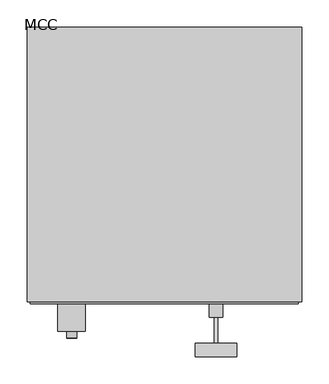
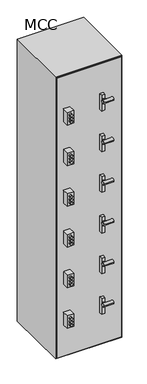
"""IFC4 building model written with IfcOpenShell, lengths in millimetres: proxy geometry, Modular Motor Control Centers - Motor Starter Section : MCC."""

from ifc_helpers import new_model, si_unit, frame, origin, origin_with_axes, place, context, project, spatial, polyline, circle_curve, outline, extrude, source, transform, mapped, element, save
from ifc_brep_helpers import plane_surface, cylinder_surface, advanced_brep


def mcc_df12b1df(model_context):
    return source(origin(), model_context, "Body", "SolidModel", [
        extrude(outline(polyline([(254.0, -508.0), (-254.0, -508.0), (-254.0, 0.0), (254.0, 0.0), (254.0, -508.0)])), origin_with_axes(), (0.0, 0.0, 1.0), 2286.0),
        advanced_brep(
        [(-180.975, -574.675, 1657.35), (-161.925, -574.675, 1657.35), (-180.975, -561.975, 1657.35), (-161.925, -561.975, 1657.35), (-146.05, -561.975, 1682.75), (-146.05, -511.175, 1682.75), (-196.85, -511.175, 1682.75), (-196.85, -561.975, 1682.75), (-146.05, -561.975, 1581.15), (-196.85, -561.975, 1581.15), (-196.85, -511.175, 1581.15), (-146.05, -511.175, 1581.15), (-161.925, -561.975, 1631.95), (-180.975, -561.975, 1631.95), (-161.925, -561.975, 1606.55), (-180.975, -561.975, 1606.55), (-180.975, -574.675, 1631.95), (-161.925, -574.675, 1631.95), (-180.975, -574.675, 1606.55), (-161.925, -574.675, 1606.55)],
        [
            (0, 1, circle_curve(frame((-171.45, -574.675, 1657.35), z_axis=(0.0, -1.0, 0.0), x_axis=(1.0, 0.0, 0.0)), 9.525)),
            (1, 0, circle_curve(frame((-171.45, -574.675, 1657.35), z_axis=(0.0, -1.0, 0.0), x_axis=(1.0, 0.0, 0.0)), 9.525)),
            (0, 2),
            (2, 3, circle_curve(frame((-171.45, -561.975, 1657.35), z_axis=(0.0, -1.0, 0.0), x_axis=(1.0, 0.0, 0.0)), 9.525)),
            (3, 1),
            (3, 2, circle_curve(frame((-171.45, -561.975, 1657.35), z_axis=(0.0, -1.0, 0.0), x_axis=(1.0, 0.0, 0.0)), 9.525)),
            (4, 5),
            (5, 6),
            (6, 7),
            (7, 4),
            (8, 9),
            (9, 10),
            (10, 11),
            (11, 8),
            (4, 8),
            (11, 5),
            (10, 6),
            (9, 7),
            (12, 13, circle_curve(frame((-171.45, -561.975, 1631.95), z_axis=(0.0, 1.0, 0.0), x_axis=(1.0, 0.0, 0.0)), 9.525)),
            (13, 12, circle_curve(frame((-171.45, -561.975, 1631.95), z_axis=(0.0, 1.0, 0.0), x_axis=(1.0, 0.0, 0.0)), 9.525)),
            (14, 15, circle_curve(frame((-171.45, -561.975, 1606.55), z_axis=(0.0, 1.0, 0.0), x_axis=(1.0, 0.0, 0.0)), 9.525)),
            (15, 14, circle_curve(frame((-171.45, -561.975, 1606.55), z_axis=(0.0, 1.0, 0.0), x_axis=(1.0, 0.0, 0.0)), 9.525)),
            (16, 17, circle_curve(frame((-171.45, -574.675, 1631.95), z_axis=(0.0, -1.0, 0.0), x_axis=(1.0, 0.0, 0.0)), 9.525)),
            (17, 16, circle_curve(frame((-171.45, -574.675, 1631.95), z_axis=(0.0, -1.0, 0.0), x_axis=(1.0, 0.0, 0.0)), 9.525)),
            (16, 13),
            (12, 17),
            (18, 19, circle_curve(frame((-171.45, -574.675, 1606.55), z_axis=(0.0, -1.0, 0.0), x_axis=(1.0, 0.0, 0.0)), 9.525)),
            (19, 18, circle_curve(frame((-171.45, -574.675, 1606.55), z_axis=(0.0, -1.0, 0.0), x_axis=(1.0, 0.0, 0.0)), 9.525)),
            (18, 15),
            (14, 19),
        ],
        [
            plane_surface(frame((-161.925, -574.675, 1657.35), z_axis=(0.0, -1.0, 0.0), x_axis=(0.0, 0.0, 1.0))),
            cylinder_surface(frame((-171.45, -561.975, 1657.35), z_axis=(0.0, -1.0, 0.0), x_axis=(1.0, 0.0, 0.0)), 9.525),
            plane_surface(frame((-146.05, -561.975, 1682.75), z_axis=(0.0, 0.0, 1.0), x_axis=(0.0, 1.0, 0.0))),
            plane_surface(frame((-146.05, -561.975, 1581.15), z_axis=(0.0, 0.0, -1.0), x_axis=(0.0, -1.0, 0.0))),
            plane_surface(frame((-146.05, -561.975, 1682.75), z_axis=(1.0, 0.0, 0.0), x_axis=(0.0, 0.0, -1.0))),
            plane_surface(frame((-146.05, -511.175, 1682.75), z_axis=(0.0, 1.0, 0.0), x_axis=(0.0, 0.0, -1.0))),
            plane_surface(frame((-196.85, -511.175, 1682.75), z_axis=(-1.0, 0.0, 0.0), x_axis=(0.0, 0.0, -1.0))),
            plane_surface(frame((-196.85, -561.975, 1682.75), z_axis=(0.0, -1.0, 0.0), x_axis=(0.0, 0.0, -1.0))),
            plane_surface(frame((-161.925, -574.675, 1631.95), z_axis=(0.0, -1.0, 0.0), x_axis=(0.0, 0.0, 1.0))),
            cylinder_surface(frame((-171.45, -561.975, 1631.95), z_axis=(0.0, -1.0, 0.0), x_axis=(1.0, 0.0, 0.0)), 9.525),
            plane_surface(frame((-161.925, -574.675, 1606.55), z_axis=(0.0, -1.0, 0.0), x_axis=(0.0, 0.0, 1.0))),
            cylinder_surface(frame((-171.45, -561.975, 1606.55), z_axis=(0.0, -1.0, 0.0), x_axis=(1.0, 0.0, 0.0)), 9.525),
        ],
        [
            (0, [[1, 2]]),
            (1, [[-1, 3, 4, 5]]),
            (1, [[-2, -5, 6, -3]]),
            (2, [[7, 8, 9, 10]]),
            (3, [[11, 12, 13, 14]]),
            (4, [[-7, 15, -14, 16]]),
            (5, [[-8, -16, -13, 17]]),
            (6, [[-9, -17, -12, 18]]),
            (7, [[-10, -18, -11, -15], [-4, -6], [19, 20], [21, 22]]),
            (8, [[23, 24]]),
            (9, [[-23, 25, -19, 26]]),
            (9, [[-24, -26, -20, -25]]),
            (10, [[27, 28]]),
            (11, [[-27, 29, -21, 30]]),
            (11, [[-28, -30, -22, -29]]),
        ],
    ),
        advanced_brep(
        [(-180.975, -574.675, 1276.35), (-161.925, -574.675, 1276.35), (-180.975, -561.975, 1276.35), (-161.925, -561.975, 1276.35), (-146.05, -561.975, 1352.55), (-146.05, -511.175, 1352.55), (-196.85, -511.175, 1352.55), (-196.85, -561.975, 1352.55), (-146.05, -561.975, 1250.95), (-196.85, -561.975, 1250.95), (-196.85, -511.175, 1250.95), (-146.05, -511.175, 1250.95), (-161.925, -561.975, 1301.75), (-180.975, -561.975, 1301.75), (-161.925, -561.975, 1327.15), (-180.975, -561.975, 1327.15), (-180.975, -574.675, 1301.75), (-161.925, -574.675, 1301.75), (-180.975, -574.675, 1327.15), (-161.925, -574.675, 1327.15)],
        [
            (0, 1, circle_curve(frame((-171.45, -574.675, 1276.35), z_axis=(0.0, -1.0, 0.0), x_axis=(1.0, 0.0, 0.0)), 9.525)),
            (1, 0, circle_curve(frame((-171.45, -574.675, 1276.35), z_axis=(0.0, -1.0, 0.0), x_axis=(1.0, 0.0, 0.0)), 9.525)),
            (0, 2),
            (2, 3, circle_curve(frame((-171.45, -561.975, 1276.35), z_axis=(0.0, -1.0, 0.0), x_axis=(1.0, 0.0, 0.0)), 9.525)),
            (3, 1),
            (3, 2, circle_curve(frame((-171.45, -561.975, 1276.35), z_axis=(0.0, -1.0, 0.0), x_axis=(1.0, 0.0, 0.0)), 9.525)),
            (4, 5),
            (5, 6),
            (6, 7),
            (7, 4),
            (8, 9),
            (9, 10),
            (10, 11),
            (11, 8),
            (4, 8),
            (11, 5),
            (10, 6),
            (9, 7),
            (12, 13, circle_curve(frame((-171.45, -561.975, 1301.75), z_axis=(0.0, 1.0, 0.0), x_axis=(1.0, 0.0, 0.0)), 9.525)),
            (13, 12, circle_curve(frame((-171.45, -561.975, 1301.75), z_axis=(0.0, 1.0, 0.0), x_axis=(1.0, 0.0, 0.0)), 9.525)),
            (14, 15, circle_curve(frame((-171.45, -561.975, 1327.15), z_axis=(0.0, 1.0, 0.0), x_axis=(1.0, 0.0, 0.0)), 9.525)),
            (15, 14, circle_curve(frame((-171.45, -561.975, 1327.15), z_axis=(0.0, 1.0, 0.0), x_axis=(1.0, 0.0, 0.0)), 9.525)),
            (16, 17, circle_curve(frame((-171.45, -574.675, 1301.75), z_axis=(0.0, -1.0, 0.0), x_axis=(1.0, 0.0, 0.0)), 9.525)),
            (17, 16, circle_curve(frame((-171.45, -574.675, 1301.75), z_axis=(0.0, -1.0, 0.0), x_axis=(1.0, 0.0, 0.0)), 9.525)),
            (16, 13),
            (12, 17),
            (18, 19, circle_curve(frame((-171.45, -574.675, 1327.15), z_axis=(0.0, -1.0, 0.0), x_axis=(1.0, 0.0, 0.0)), 9.525)),
            (19, 18, circle_curve(frame((-171.45, -574.675, 1327.15), z_axis=(0.0, -1.0, 0.0), x_axis=(1.0, 0.0, 0.0)), 9.525)),
            (18, 15),
            (14, 19),
        ],
        [
            plane_surface(frame((-161.925, -574.675, 1276.35), z_axis=(0.0, -1.0, 0.0), x_axis=(0.0, 0.0, 1.0))),
            cylinder_surface(frame((-171.45, -561.975, 1276.35), z_axis=(0.0, -1.0, 0.0), x_axis=(1.0, 0.0, 0.0)), 9.525),
            plane_surface(frame((-146.05, -561.975, 1352.55), z_axis=(0.0, 0.0, 1.0), x_axis=(0.0, 1.0, 0.0))),
            plane_surface(frame((-146.05, -561.975, 1250.95), z_axis=(0.0, 0.0, -1.0), x_axis=(0.0, -1.0, 0.0))),
            plane_surface(frame((-146.05, -561.975, 1352.55), z_axis=(1.0, 0.0, 0.0), x_axis=(0.0, 0.0, -1.0))),
            plane_surface(frame((-146.05, -511.175, 1352.55), z_axis=(0.0, 1.0, 0.0), x_axis=(0.0, 0.0, -1.0))),
            plane_surface(frame((-196.85, -511.175, 1352.55), z_axis=(-1.0, 0.0, 0.0), x_axis=(0.0, 0.0, -1.0))),
            plane_surface(frame((-196.85, -561.975, 1352.55), z_axis=(0.0, -1.0, 0.0), x_axis=(0.0, 0.0, -1.0))),
            plane_surface(frame((-161.925, -574.675, 1301.75), z_axis=(0.0, -1.0, 0.0), x_axis=(0.0, 0.0, 1.0))),
            cylinder_surface(frame((-171.45, -561.975, 1301.75), z_axis=(0.0, -1.0, 0.0), x_axis=(1.0, 0.0, 0.0)), 9.525),
            plane_surface(frame((-161.925, -574.675, 1327.15), z_axis=(0.0, -1.0, 0.0), x_axis=(0.0, 0.0, 1.0))),
            cylinder_surface(frame((-171.45, -561.975, 1327.15), z_axis=(0.0, -1.0, 0.0), x_axis=(1.0, 0.0, 0.0)), 9.525),
        ],
        [
            (0, [[1, 2]]),
            (1, [[-1, 3, 4, 5]]),
            (1, [[-2, -5, 6, -3]]),
            (2, [[7, 8, 9, 10]]),
            (3, [[11, 12, 13, 14]]),
            (4, [[-7, 15, -14, 16]]),
            (5, [[-8, -16, -13, 17]]),
            (6, [[-9, -17, -12, 18]]),
            (7, [[-10, -18, -11, -15], [-4, -6], [19, 20], [21, 22]]),
            (8, [[23, 24]]),
            (9, [[-23, 25, -19, 26]]),
            (9, [[-24, -26, -20, -25]]),
            (10, [[27, 28]]),
            (11, [[-27, 29, -21, 30]]),
            (11, [[-28, -30, -22, -29]]),
        ],
    ),
        advanced_brep(
        [(-180.975, -574.675, 996.95), (-161.925, -574.675, 996.95), (-180.975, -561.975, 996.95), (-161.925, -561.975, 996.95), (-146.05, -561.975, 1022.35), (-146.05, -511.175, 1022.35), (-196.85, -511.175, 1022.35), (-196.85, -561.975, 1022.35), (-146.05, -561.975, 920.75), (-196.85, -561.975, 920.75), (-196.85, -511.175, 920.75), (-146.05, -511.175, 920.75), (-161.925, -561.975, 971.55), (-180.975, -561.975, 971.55), (-161.925, -561.975, 946.15), (-180.975, -561.975, 946.15), (-180.975, -574.675, 971.55), (-161.925, -574.675, 971.55), (-180.975, -574.675, 946.15), (-161.925, -574.675, 946.15)],
        [
            (0, 1, circle_curve(frame((-171.45, -574.675, 996.95), z_axis=(0.0, -1.0, 0.0), x_axis=(1.0, 0.0, 0.0)), 9.525)),
            (1, 0, circle_curve(frame((-171.45, -574.675, 996.95), z_axis=(0.0, -1.0, 0.0), x_axis=(1.0, 0.0, 0.0)), 9.525)),
            (0, 2),
            (2, 3, circle_curve(frame((-171.45, -561.975, 996.95), z_axis=(0.0, -1.0, 0.0), x_axis=(1.0, 0.0, 0.0)), 9.525)),
            (3, 1),
            (3, 2, circle_curve(frame((-171.45, -561.975, 996.95), z_axis=(0.0, -1.0, 0.0), x_axis=(1.0, 0.0, 0.0)), 9.525)),
            (4, 5),
            (5, 6),
            (6, 7),
            (7, 4),
            (8, 9),
            (9, 10),
            (10, 11),
            (11, 8),
            (4, 8),
            (11, 5),
            (10, 6),
            (9, 7),
            (12, 13, circle_curve(frame((-171.45, -561.975, 971.55), z_axis=(0.0, 1.0, 0.0), x_axis=(1.0, 0.0, 0.0)), 9.525)),
            (13, 12, circle_curve(frame((-171.45, -561.975, 971.55), z_axis=(0.0, 1.0, 0.0), x_axis=(1.0, 0.0, 0.0)), 9.525)),
            (14, 15, circle_curve(frame((-171.45, -561.975, 946.15), z_axis=(0.0, 1.0, 0.0), x_axis=(1.0, 0.0, 0.0)), 9.525)),
            (15, 14, circle_curve(frame((-171.45, -561.975, 946.15), z_axis=(0.0, 1.0, 0.0), x_axis=(1.0, 0.0, 0.0)), 9.525)),
            (16, 17, circle_curve(frame((-171.45, -574.675, 971.55), z_axis=(0.0, -1.0, 0.0), x_axis=(1.0, 0.0, 0.0)), 9.525)),
            (17, 16, circle_curve(frame((-171.45, -574.675, 971.55), z_axis=(0.0, -1.0, 0.0), x_axis=(1.0, 0.0, 0.0)), 9.525)),
            (16, 13),
            (12, 17),
            (18, 19, circle_curve(frame((-171.45, -574.675, 946.15), z_axis=(0.0, -1.0, 0.0), x_axis=(1.0, 0.0, 0.0)), 9.525)),
            (19, 18, circle_curve(frame((-171.45, -574.675, 946.15), z_axis=(0.0, -1.0, 0.0), x_axis=(1.0, 0.0, 0.0)), 9.525)),
            (18, 15),
            (14, 19),
        ],
        [
            plane_surface(frame((-161.925, -574.675, 996.95), z_axis=(0.0, -1.0, 0.0), x_axis=(0.0, 0.0, 1.0))),
            cylinder_surface(frame((-171.45, -561.975, 996.95), z_axis=(0.0, -1.0, 0.0), x_axis=(1.0, 0.0, 0.0)), 9.525),
            plane_surface(frame((-146.05, -561.975, 1022.35), z_axis=(0.0, 0.0, 1.0), x_axis=(0.0, 1.0, 0.0))),
            plane_surface(frame((-146.05, -561.975, 920.75), z_axis=(0.0, 0.0, -1.0), x_axis=(0.0, -1.0, 0.0))),
            plane_surface(frame((-146.05, -561.975, 1022.35), z_axis=(1.0, 0.0, 0.0), x_axis=(0.0, 0.0, -1.0))),
            plane_surface(frame((-146.05, -511.175, 1022.35), z_axis=(0.0, 1.0, 0.0), x_axis=(0.0, 0.0, -1.0))),
            plane_surface(frame((-196.85, -511.175, 1022.35), z_axis=(-1.0, 0.0, 0.0), x_axis=(0.0, 0.0, -1.0))),
            plane_surface(frame((-196.85, -561.975, 1022.35), z_axis=(0.0, -1.0, 0.0), x_axis=(0.0, 0.0, -1.0))),
            plane_surface(frame((-161.925, -574.675, 971.55), z_axis=(0.0, -1.0, 0.0), x_axis=(0.0, 0.0, 1.0))),
            cylinder_surface(frame((-171.45, -561.975, 971.55), z_axis=(0.0, -1.0, 0.0), x_axis=(1.0, 0.0, 0.0)), 9.525),
            plane_surface(frame((-161.925, -574.675, 946.15), z_axis=(0.0, -1.0, 0.0), x_axis=(0.0, 0.0, 1.0))),
            cylinder_surface(frame((-171.45, -561.975, 946.15), z_axis=(0.0, -1.0, 0.0), x_axis=(1.0, 0.0, 0.0)), 9.525),
        ],
        [
            (0, [[1, 2]]),
            (1, [[-1, 3, 4, 5]]),
            (1, [[-2, -5, 6, -3]]),
            (2, [[7, 8, 9, 10]]),
            (3, [[11, 12, 13, 14]]),
            (4, [[-7, 15, -14, 16]]),
            (5, [[-8, -16, -13, 17]]),
            (6, [[-9, -17, -12, 18]]),
            (7, [[-10, -18, -11, -15], [-4, -6], [19, 20], [21, 22]]),
            (8, [[23, 24]]),
            (9, [[-23, 25, -19, 26]]),
            (9, [[-24, -26, -20, -25]]),
            (10, [[27, 28]]),
            (11, [[-27, 29, -21, 30]]),
            (11, [[-28, -30, -22, -29]]),
        ],
    ),
        advanced_brep(
        [(-180.975, -574.675, 615.95), (-161.925, -574.675, 615.95), (-180.975, -561.975, 615.95), (-161.925, -561.975, 615.95), (-146.05, -561.975, 692.15), (-146.05, -511.175, 692.15), (-196.85, -511.175, 692.15), (-196.85, -561.975, 692.15), (-146.05, -561.975, 590.55), (-196.85, -561.975, 590.55), (-196.85, -511.175, 590.55), (-146.05, -511.175, 590.55), (-161.925, -561.975, 641.35), (-180.975, -561.975, 641.35), (-161.925, -561.975, 666.75), (-180.975, -561.975, 666.75), (-180.975, -574.675, 641.35), (-161.925, -574.675, 641.35), (-180.975, -574.675, 666.75), (-161.925, -574.675, 666.75)],
        [
            (0, 1, circle_curve(frame((-171.45, -574.675, 615.95), z_axis=(0.0, -1.0, 0.0), x_axis=(1.0, 0.0, 0.0)), 9.525)),
            (1, 0, circle_curve(frame((-171.45, -574.675, 615.95), z_axis=(0.0, -1.0, 0.0), x_axis=(1.0, 0.0, 0.0)), 9.525)),
            (0, 2),
            (2, 3, circle_curve(frame((-171.45, -561.975, 615.95), z_axis=(0.0, -1.0, 0.0), x_axis=(1.0, 0.0, 0.0)), 9.525)),
            (3, 1),
            (3, 2, circle_curve(frame((-171.45, -561.975, 615.95), z_axis=(0.0, -1.0, 0.0), x_axis=(1.0, 0.0, 0.0)), 9.525)),
            (4, 5),
            (5, 6),
            (6, 7),
            (7, 4),
            (8, 9),
            (9, 10),
            (10, 11),
            (11, 8),
            (4, 8),
            (11, 5),
            (10, 6),
            (9, 7),
            (12, 13, circle_curve(frame((-171.45, -561.975, 641.35), z_axis=(0.0, 1.0, 0.0), x_axis=(1.0, 0.0, 0.0)), 9.525)),
            (13, 12, circle_curve(frame((-171.45, -561.975, 641.35), z_axis=(0.0, 1.0, 0.0), x_axis=(1.0, 0.0, 0.0)), 9.525)),
            (14, 15, circle_curve(frame((-171.45, -561.975, 666.75), z_axis=(0.0, 1.0, 0.0), x_axis=(1.0, 0.0, 0.0)), 9.525)),
            (15, 14, circle_curve(frame((-171.45, -561.975, 666.75), z_axis=(0.0, 1.0, 0.0), x_axis=(1.0, 0.0, 0.0)), 9.525)),
            (16, 17, circle_curve(frame((-171.45, -574.675, 641.35), z_axis=(0.0, -1.0, 0.0), x_axis=(1.0, 0.0, 0.0)), 9.525)),
            (17, 16, circle_curve(frame((-171.45, -574.675, 641.35), z_axis=(0.0, -1.0, 0.0), x_axis=(1.0, 0.0, 0.0)), 9.525)),
            (16, 13),
            (12, 17),
            (18, 19, circle_curve(frame((-171.45, -574.675, 666.75), z_axis=(0.0, -1.0, 0.0), x_axis=(1.0, 0.0, 0.0)), 9.525)),
            (19, 18, circle_curve(frame((-171.45, -574.675, 666.75), z_axis=(0.0, -1.0, 0.0), x_axis=(1.0, 0.0, 0.0)), 9.525)),
            (18, 15),
            (14, 19),
        ],
        [
            plane_surface(frame((-161.925, -574.675, 615.95), z_axis=(0.0, -1.0, 0.0), x_axis=(0.0, 0.0, 1.0))),
            cylinder_surface(frame((-171.45, -561.975, 615.95), z_axis=(0.0, -1.0, 0.0), x_axis=(1.0, 0.0, 0.0)), 9.525),
            plane_surface(frame((-146.05, -561.975, 692.15), z_axis=(0.0, 0.0, 1.0), x_axis=(0.0, 1.0, 0.0))),
            plane_surface(frame((-146.05, -561.975, 590.55), z_axis=(0.0, 0.0, -1.0), x_axis=(0.0, -1.0, 0.0))),
            plane_surface(frame((-146.05, -561.975, 692.15), z_axis=(1.0, 0.0, 0.0), x_axis=(0.0, 0.0, -1.0))),
            plane_surface(frame((-146.05, -511.175, 692.15), z_axis=(0.0, 1.0, 0.0), x_axis=(0.0, 0.0, -1.0))),
            plane_surface(frame((-196.85, -511.175, 692.15), z_axis=(-1.0, 0.0, 0.0), x_axis=(0.0, 0.0, -1.0))),
            plane_surface(frame((-196.85, -561.975, 692.15), z_axis=(0.0, -1.0, 0.0), x_axis=(0.0, 0.0, -1.0))),
            plane_surface(frame((-161.925, -574.675, 641.35), z_axis=(0.0, -1.0, 0.0), x_axis=(0.0, 0.0, 1.0))),
            cylinder_surface(frame((-171.45, -561.975, 641.35), z_axis=(0.0, -1.0, 0.0), x_axis=(1.0, 0.0, 0.0)), 9.525),
            plane_surface(frame((-161.925, -574.675, 666.75), z_axis=(0.0, -1.0, 0.0), x_axis=(0.0, 0.0, 1.0))),
            cylinder_surface(frame((-171.45, -561.975, 666.75), z_axis=(0.0, -1.0, 0.0), x_axis=(1.0, 0.0, 0.0)), 9.525),
        ],
        [
            (0, [[1, 2]]),
            (1, [[-1, 3, 4, 5]]),
            (1, [[-2, -5, 6, -3]]),
            (2, [[7, 8, 9, 10]]),
            (3, [[11, 12, 13, 14]]),
            (4, [[-7, 15, -14, 16]]),
            (5, [[-8, -16, -13, 17]]),
            (6, [[-9, -17, -12, 18]]),
            (7, [[-10, -18, -11, -15], [-4, -6], [19, 20], [21, 22]]),
            (8, [[23, 24]]),
            (9, [[-23, 25, -19, 26]]),
            (9, [[-24, -26, -20, -25]]),
            (10, [[27, 28]]),
            (11, [[-27, 29, -21, 30]]),
            (11, [[-28, -30, -22, -29]]),
        ],
    ),
        advanced_brep(
        [(-180.975, -574.675, 336.55), (-161.925, -574.675, 336.55), (-180.975, -561.975, 336.55), (-161.925, -561.975, 336.55), (-146.05, -561.975, 361.95), (-146.05, -511.175, 361.95), (-196.85, -511.175, 361.95), (-196.85, -561.975, 361.95), (-146.05, -561.975, 260.35), (-196.85, -561.975, 260.35), (-196.85, -511.175, 260.35), (-146.05, -511.175, 260.35), (-161.925, -561.975, 311.15), (-180.975, -561.975, 311.15), (-161.925, -561.975, 285.75), (-180.975, -561.975, 285.75), (-180.975, -574.675, 311.15), (-161.925, -574.675, 311.15), (-180.975, -574.675, 285.75), (-161.925, -574.675, 285.75)],
        [
            (0, 1, circle_curve(frame((-171.45, -574.675, 336.55), z_axis=(0.0, -1.0, 0.0), x_axis=(1.0, 0.0, 0.0)), 9.525)),
            (1, 0, circle_curve(frame((-171.45, -574.675, 336.55), z_axis=(0.0, -1.0, 0.0), x_axis=(1.0, 0.0, 0.0)), 9.525)),
            (0, 2),
            (2, 3, circle_curve(frame((-171.45, -561.975, 336.55), z_axis=(0.0, -1.0, 0.0), x_axis=(1.0, 0.0, 0.0)), 9.525)),
            (3, 1),
            (3, 2, circle_curve(frame((-171.45, -561.975, 336.55), z_axis=(0.0, -1.0, 0.0), x_axis=(1.0, 0.0, 0.0)), 9.525)),
            (4, 5),
            (5, 6),
            (6, 7),
            (7, 4),
            (8, 9),
            (9, 10),
            (10, 11),
            (11, 8),
            (4, 8),
            (11, 5),
            (10, 6),
            (9, 7),
            (12, 13, circle_curve(frame((-171.45, -561.975, 311.15), z_axis=(0.0, 1.0, 0.0), x_axis=(1.0, 0.0, 0.0)), 9.525)),
            (13, 12, circle_curve(frame((-171.45, -561.975, 311.15), z_axis=(0.0, 1.0, 0.0), x_axis=(1.0, 0.0, 0.0)), 9.525)),
            (14, 15, circle_curve(frame((-171.45, -561.975, 285.75), z_axis=(0.0, 1.0, 0.0), x_axis=(1.0, 0.0, 0.0)), 9.525)),
            (15, 14, circle_curve(frame((-171.45, -561.975, 285.75), z_axis=(0.0, 1.0, 0.0), x_axis=(1.0, 0.0, 0.0)), 9.525)),
            (16, 17, circle_curve(frame((-171.45, -574.675, 311.15), z_axis=(0.0, -1.0, 0.0), x_axis=(1.0, 0.0, 0.0)), 9.525)),
            (17, 16, circle_curve(frame((-171.45, -574.675, 311.15), z_axis=(0.0, -1.0, 0.0), x_axis=(1.0, 0.0, 0.0)), 9.525)),
            (16, 13),
            (12, 17),
            (18, 19, circle_curve(frame((-171.45, -574.675, 285.75), z_axis=(0.0, -1.0, 0.0), x_axis=(1.0, 0.0, 0.0)), 9.525)),
            (19, 18, circle_curve(frame((-171.45, -574.675, 285.75), z_axis=(0.0, -1.0, 0.0), x_axis=(1.0, 0.0, 0.0)), 9.525)),
            (18, 15),
            (14, 19),
        ],
        [
            plane_surface(frame((-161.925, -574.675, 336.55), z_axis=(0.0, -1.0, 0.0), x_axis=(0.0, 0.0, 1.0))),
            cylinder_surface(frame((-171.45, -561.975, 336.55), z_axis=(0.0, -1.0, 0.0), x_axis=(1.0, 0.0, 0.0)), 9.525),
            plane_surface(frame((-146.05, -561.975, 361.95), z_axis=(0.0, 0.0, 1.0), x_axis=(0.0, 1.0, 0.0))),
            plane_surface(frame((-146.05, -561.975, 260.35), z_axis=(0.0, 0.0, -1.0), x_axis=(0.0, -1.0, 0.0))),
            plane_surface(frame((-146.05, -561.975, 361.95), z_axis=(1.0, 0.0, 0.0), x_axis=(0.0, 0.0, -1.0))),
            plane_surface(frame((-146.05, -511.175, 361.95), z_axis=(0.0, 1.0, 0.0), x_axis=(0.0, 0.0, -1.0))),
            plane_surface(frame((-196.85, -511.175, 361.95), z_axis=(-1.0, 0.0, 0.0), x_axis=(0.0, 0.0, -1.0))),
            plane_surface(frame((-196.85, -561.975, 361.95), z_axis=(0.0, -1.0, 0.0), x_axis=(0.0, 0.0, -1.0))),
            plane_surface(frame((-161.925, -574.675, 311.15), z_axis=(0.0, -1.0, 0.0), x_axis=(0.0, 0.0, 1.0))),
            cylinder_surface(frame((-171.45, -561.975, 311.15), z_axis=(0.0, -1.0, 0.0), x_axis=(1.0, 0.0, 0.0)), 9.525),
            plane_surface(frame((-161.925, -574.675, 285.75), z_axis=(0.0, -1.0, 0.0), x_axis=(0.0, 0.0, 1.0))),
            cylinder_surface(frame((-171.45, -561.975, 285.75), z_axis=(0.0, -1.0, 0.0), x_axis=(1.0, 0.0, 0.0)), 9.525),
        ],
        [
            (0, [[1, 2]]),
            (1, [[-1, 3, 4, 5]]),
            (1, [[-2, -5, 6, -3]]),
            (2, [[7, 8, 9, 10]]),
            (3, [[11, 12, 13, 14]]),
            (4, [[-7, 15, -14, 16]]),
            (5, [[-8, -16, -13, 17]]),
            (6, [[-9, -17, -12, 18]]),
            (7, [[-10, -18, -11, -15], [-4, -6], [19, 20], [21, 22]]),
            (8, [[23, 24]]),
            (9, [[-23, 25, -19, 26]]),
            (9, [[-24, -26, -20, -25]]),
            (10, [[27, 28]]),
            (11, [[-27, 29, -21, 30]]),
            (11, [[-28, -30, -22, -29]]),
        ],
    ),
        advanced_brep(
        [(133.35, -609.6, 380.511722), (133.35, -584.2, 380.511722), (57.15, -609.6, 380.511722), (57.15, -584.2, 380.511722), (92.075, -584.2, 380.511722), (92.075, -592.2496346, 368.6937653), (98.425, -592.2496346, 368.6937653), (98.425, -584.2, 380.511722), (98.425, -584.4380765, 382.9592643), (92.075, -584.4380765, 382.9592643), (98.425, -536.575, 336.55), (98.425, -536.575, 355.3255041), (92.075, -536.575, 355.3255041), (92.075, -536.575, 336.55), (107.95, -536.575, 260.35), (107.95, -536.575, 387.35), (82.55, -536.575, 387.35), (82.55, -536.575, 260.35), (107.95, -511.175, 260.35), (82.55, -511.175, 260.35), (82.55, -511.175, 387.35), (107.95, -511.175, 387.35)],
        [
            (0, 1, circle_curve(frame((133.35, -596.9, 380.511722), z_axis=(1.0, 0.0, 0.0), x_axis=(0.0, 1.0, 0.0)), 12.7)),
            (1, 0, circle_curve(frame((133.35, -596.9, 380.511722), z_axis=(1.0, 0.0, 0.0), x_axis=(0.0, 1.0, 0.0)), 12.7)),
            (2, 3, circle_curve(frame((57.15, -596.9, 380.511722), z_axis=(-1.0, 0.0, 0.0), x_axis=(0.0, 1.0, 0.0)), 12.7)),
            (3, 2, circle_curve(frame((57.15, -596.9, 380.511722), z_axis=(-1.0, 0.0, 0.0), x_axis=(0.0, 1.0, 0.0)), 12.7)),
            (0, 2),
            (3, 4),
            (4, 5, circle_curve(frame((92.075, -596.9, 380.511722), z_axis=(-1.0, 0.0, 0.0), x_axis=(0.0, 1.0, 0.0)), 12.7)),
            (5, 6),
            (6, 7, circle_curve(frame((98.425, -596.9, 380.511722), z_axis=(1.0, 0.0, 0.0), x_axis=(0.0, 1.0, 0.0)), 12.7)),
            (7, 1),
            (7, 8, circle_curve(frame((98.425, -596.9, 380.511722), z_axis=(1.0, 0.0, 0.0), x_axis=(0.0, 1.0, 0.0)), 12.7)),
            (8, 9),
            (9, 4, circle_curve(frame((92.075, -596.9, 380.511722), z_axis=(-1.0, 0.0, 0.0), x_axis=(0.0, 1.0, 0.0)), 12.7)),
            (6, 10),
            (10, 11),
            (11, 8),
            (9, 12),
            (12, 13),
            (13, 5),
            (13, 10),
            (11, 12),
            (14, 15),
            (15, 16),
            (16, 17),
            (17, 14),
            (18, 19),
            (19, 20),
            (20, 21),
            (21, 18),
            (14, 18),
            (21, 15),
            (20, 16),
            (19, 17),
        ],
        [
            plane_surface(frame((133.35, -584.2, 380.511722), z_axis=(1.0, 0.0, 0.0), x_axis=(0.0, 0.0, 1.0))),
            plane_surface(frame((57.15, -584.2, 380.511722), z_axis=(-1.0, 0.0, 0.0), x_axis=(0.0, 0.0, -1.0))),
            cylinder_surface(frame((57.15, -596.9, 380.511722), z_axis=(1.0, 0.0, 0.0), x_axis=(0.0, 1.0, 0.0)), 12.7),
            plane_surface(frame((98.425, -596.9, 371.378655), z_axis=(1.0, 0.0, 0.0), x_axis=(0.0, 0.0, -1.0))),
            plane_surface(frame((92.075, -596.9, 371.378655), z_axis=(-1.0, 0.0, 0.0), x_axis=(0.0, 0.0, 1.0))),
            plane_surface(frame((98.425, -596.9, 371.378655), z_axis=(0.0, -0.5000000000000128, -0.8660254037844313), x_axis=(-1.0, 0.0, 0.0))),
            plane_surface(frame((98.425, -536.575, 355.3255041), z_axis=(0.0, 0.5000000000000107, 0.8660254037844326), x_axis=(-1.0, 0.0, 0.0))),
            plane_surface(frame((107.95, -536.575, 260.35), z_axis=(0.0, -1.0, 0.0), x_axis=(0.0, 0.0, 1.0))),
            plane_surface(frame((107.95, -511.175, 260.35), z_axis=(0.0, 1.0, 0.0), x_axis=(0.0, 0.0, -1.0))),
            plane_surface(frame((107.95, -536.575, 260.35), z_axis=(1.0, 0.0, 0.0), x_axis=(0.0, 1.0, 0.0))),
            plane_surface(frame((107.95, -536.575, 387.35), z_axis=(0.0, 0.0, 1.0), x_axis=(0.0, 1.0, 0.0))),
            plane_surface(frame((82.55, -536.575, 387.35), z_axis=(-1.0, 0.0, 0.0), x_axis=(0.0, 1.0, 0.0))),
            plane_surface(frame((82.55, -536.575, 260.35), z_axis=(0.0, 0.0, -1.0), x_axis=(0.0, 1.0, 0.0))),
        ],
        [
            (0, [[1, 2]]),
            (1, [[3, 4]]),
            (2, [[-1, 5, -4, 6, 7, 8, 9, 10]]),
            (2, [[-2, -10, 11, 12, 13, -6, -3, -5]]),
            (3, [[14, 15, 16, -11, -9]]),
            (4, [[17, 18, 19, -7, -13]]),
            (5, [[-14, -8, -19, 20]]),
            (6, [[-16, 21, -17, -12]]),
            (7, [[22, 23, 24, 25], [-15, -20, -18, -21]]),
            (8, [[26, 27, 28, 29]]),
            (9, [[-22, 30, -29, 31]]),
            (10, [[-23, -31, -28, 32]]),
            (11, [[-24, -32, -27, 33]]),
            (12, [[-25, -33, -26, -30]]),
        ],
    ),
        advanced_brep(
        [(133.35, -609.6, 710.711722), (133.35, -584.2, 710.711722), (57.15, -609.6, 710.711722), (57.15, -584.2, 710.711722), (92.075, -584.2, 710.711722), (92.075, -592.2496346, 698.8937653), (98.425, -592.2496346, 698.8937653), (98.425, -584.2, 710.711722), (98.425, -584.4380765, 713.1592643), (92.075, -584.4380765, 713.1592643), (98.425, -536.575, 666.75), (98.425, -536.575, 685.5255041), (92.075, -536.575, 685.5255041), (92.075, -536.575, 666.75), (107.95, -536.575, 590.55), (107.95, -536.575, 717.55), (82.55, -536.575, 717.55), (82.55, -536.575, 590.55), (107.95, -511.175, 590.55), (82.55, -511.175, 590.55), (82.55, -511.175, 717.55), (107.95, -511.175, 717.55)],
        [
            (0, 1, circle_curve(frame((133.35, -596.9, 710.711722), z_axis=(1.0, 0.0, 0.0), x_axis=(0.0, 1.0, 0.0)), 12.7)),
            (1, 0, circle_curve(frame((133.35, -596.9, 710.711722), z_axis=(1.0, 0.0, 0.0), x_axis=(0.0, 1.0, 0.0)), 12.7)),
            (2, 3, circle_curve(frame((57.15, -596.9, 710.711722), z_axis=(-1.0, 0.0, 0.0), x_axis=(0.0, 1.0, 0.0)), 12.7)),
            (3, 2, circle_curve(frame((57.15, -596.9, 710.711722), z_axis=(-1.0, 0.0, 0.0), x_axis=(0.0, 1.0, 0.0)), 12.7)),
            (0, 2),
            (3, 4),
            (4, 5, circle_curve(frame((92.075, -596.9, 710.711722), z_axis=(-1.0, 0.0, 0.0), x_axis=(0.0, 1.0, 0.0)), 12.7)),
            (5, 6),
            (6, 7, circle_curve(frame((98.425, -596.9, 710.711722), z_axis=(1.0, 0.0, 0.0), x_axis=(0.0, 1.0, 0.0)), 12.7)),
            (7, 1),
            (7, 8, circle_curve(frame((98.425, -596.9, 710.711722), z_axis=(1.0, 0.0, 0.0), x_axis=(0.0, 1.0, 0.0)), 12.7)),
            (8, 9),
            (9, 4, circle_curve(frame((92.075, -596.9, 710.711722), z_axis=(-1.0, 0.0, 0.0), x_axis=(0.0, 1.0, 0.0)), 12.7)),
            (6, 10),
            (10, 11),
            (11, 8),
            (9, 12),
            (12, 13),
            (13, 5),
            (13, 10),
            (11, 12),
            (14, 15),
            (15, 16),
            (16, 17),
            (17, 14),
            (18, 19),
            (19, 20),
            (20, 21),
            (21, 18),
            (14, 18),
            (21, 15),
            (20, 16),
            (19, 17),
        ],
        [
            plane_surface(frame((133.35, -584.2, 710.711722), z_axis=(1.0, 0.0, 0.0), x_axis=(0.0, 0.0, 1.0))),
            plane_surface(frame((57.15, -584.2, 710.711722), z_axis=(-1.0, 0.0, 0.0), x_axis=(0.0, 0.0, -1.0))),
            cylinder_surface(frame((57.15, -596.9, 710.711722), z_axis=(1.0, 0.0, 0.0), x_axis=(0.0, 1.0, 0.0)), 12.7),
            plane_surface(frame((98.425, -596.9, 701.578655), z_axis=(1.0, 0.0, 0.0), x_axis=(0.0, 0.0, -1.0))),
            plane_surface(frame((92.075, -596.9, 701.578655), z_axis=(-1.0, 0.0, 0.0), x_axis=(0.0, 0.0, 1.0))),
            plane_surface(frame((98.425, -596.9, 701.578655), z_axis=(0.0, -0.500000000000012, -0.8660254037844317), x_axis=(-1.0, 0.0, 0.0))),
            plane_surface(frame((98.425, -536.575, 685.5255041), z_axis=(0.0, 0.5000000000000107, 0.8660254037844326), x_axis=(-1.0, 0.0, 0.0))),
            plane_surface(frame((107.95, -536.575, 590.55), z_axis=(0.0, -1.0, 0.0), x_axis=(0.0, 0.0, 1.0))),
            plane_surface(frame((107.95, -511.175, 590.55), z_axis=(0.0, 1.0, 0.0), x_axis=(0.0, 0.0, -1.0))),
            plane_surface(frame((107.95, -536.575, 590.55), z_axis=(1.0, 0.0, 0.0), x_axis=(0.0, 1.0, 0.0))),
            plane_surface(frame((107.95, -536.575, 717.55), z_axis=(0.0, 0.0, 1.0), x_axis=(0.0, 1.0, 0.0))),
            plane_surface(frame((82.55, -536.575, 717.55), z_axis=(-1.0, 0.0, 0.0), x_axis=(0.0, 1.0, 0.0))),
            plane_surface(frame((82.55, -536.575, 590.55), z_axis=(0.0, 0.0, -1.0), x_axis=(0.0, 1.0, 0.0))),
        ],
        [
            (0, [[1, 2]]),
            (1, [[3, 4]]),
            (2, [[-1, 5, -4, 6, 7, 8, 9, 10]]),
            (2, [[-2, -10, 11, 12, 13, -6, -3, -5]]),
            (3, [[14, 15, 16, -11, -9]]),
            (4, [[17, 18, 19, -7, -13]]),
            (5, [[-14, -8, -19, 20]]),
            (6, [[-16, 21, -17, -12]]),
            (7, [[22, 23, 24, 25], [-15, -20, -18, -21]]),
            (8, [[26, 27, 28, 29]]),
            (9, [[-22, 30, -29, 31]]),
            (10, [[-23, -31, -28, 32]]),
            (11, [[-24, -32, -27, 33]]),
            (12, [[-25, -33, -26, -30]]),
        ],
    ),
        advanced_brep(
        [(133.35, -609.6, 1701.311722), (133.35, -584.2, 1701.311722), (57.15, -609.6, 1701.311722), (57.15, -584.2, 1701.311722), (92.075, -584.2, 1701.311722), (92.075, -592.2496346, 1689.4937653), (98.425, -592.2496346, 1689.4937653), (98.425, -584.2, 1701.311722), (98.425, -584.4380765, 1703.7592643), (92.075, -584.4380765, 1703.7592643), (98.425, -536.575, 1657.35), (98.425, -536.575, 1676.1255041), (92.075, -536.575, 1676.1255041), (92.075, -536.575, 1657.35), (107.95, -536.575, 1581.15), (107.95, -536.575, 1708.15), (82.55, -536.575, 1708.15), (82.55, -536.575, 1581.15), (107.95, -511.175, 1581.15), (82.55, -511.175, 1581.15), (82.55, -511.175, 1708.15), (107.95, -511.175, 1708.15)],
        [
            (0, 1, circle_curve(frame((133.35, -596.9, 1701.311722), z_axis=(1.0, 0.0, 0.0), x_axis=(0.0, 1.0, 0.0)), 12.7)),
            (1, 0, circle_curve(frame((133.35, -596.9, 1701.311722), z_axis=(1.0, 0.0, 0.0), x_axis=(0.0, 1.0, 0.0)), 12.7)),
            (2, 3, circle_curve(frame((57.15, -596.9, 1701.311722), z_axis=(-1.0, 0.0, 0.0), x_axis=(0.0, 1.0, 0.0)), 12.7)),
            (3, 2, circle_curve(frame((57.15, -596.9, 1701.311722), z_axis=(-1.0, 0.0, 0.0), x_axis=(0.0, 1.0, 0.0)), 12.7)),
            (0, 2),
            (3, 4),
            (4, 5, circle_curve(frame((92.075, -596.9, 1701.311722), z_axis=(-1.0, 0.0, 0.0), x_axis=(0.0, 1.0, 0.0)), 12.7)),
            (5, 6),
            (6, 7, circle_curve(frame((98.425, -596.9, 1701.311722), z_axis=(1.0, 0.0, 0.0), x_axis=(0.0, 1.0, 0.0)), 12.7)),
            (7, 1),
            (7, 8, circle_curve(frame((98.425, -596.9, 1701.311722), z_axis=(1.0, 0.0, 0.0), x_axis=(0.0, 1.0, 0.0)), 12.7)),
            (8, 9),
            (9, 4, circle_curve(frame((92.075, -596.9, 1701.311722), z_axis=(-1.0, 0.0, 0.0), x_axis=(0.0, 1.0, 0.0)), 12.7)),
            (6, 10),
            (10, 11),
            (11, 8),
            (9, 12),
            (12, 13),
            (13, 5),
            (13, 10),
            (11, 12),
            (14, 15),
            (15, 16),
            (16, 17),
            (17, 14),
            (18, 19),
            (19, 20),
            (20, 21),
            (21, 18),
            (14, 18),
            (21, 15),
            (20, 16),
            (19, 17),
        ],
        [
            plane_surface(frame((133.35, -584.2, 1701.311722), z_axis=(1.0, 0.0, 0.0), x_axis=(0.0, 0.0, 1.0))),
            plane_surface(frame((57.15, -584.2, 1701.311722), z_axis=(-1.0, 0.0, 0.0), x_axis=(0.0, 0.0, -1.0))),
            cylinder_surface(frame((57.15, -596.9, 1701.311722), z_axis=(1.0, 0.0, 0.0), x_axis=(0.0, 1.0, 0.0)), 12.7),
            plane_surface(frame((98.425, -596.9, 1692.178655), z_axis=(1.0, 0.0, 0.0), x_axis=(0.0, 0.0, -1.0))),
            plane_surface(frame((92.075, -596.9, 1692.178655), z_axis=(-1.0, 0.0, 0.0), x_axis=(0.0, 0.0, 1.0))),
            plane_surface(frame((98.425, -596.9, 1692.178655), z_axis=(0.0, -0.5000000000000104, -0.8660254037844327), x_axis=(-1.0, 0.0, 0.0))),
            plane_surface(frame((98.425, -536.575, 1676.1255041), z_axis=(0.0, 0.5000000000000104, 0.8660254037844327), x_axis=(-1.0, 0.0, 0.0))),
            plane_surface(frame((107.95, -536.575, 1581.15), z_axis=(0.0, -1.0, 0.0), x_axis=(0.0, 0.0, 1.0))),
            plane_surface(frame((107.95, -511.175, 1581.15), z_axis=(0.0, 1.0, 0.0), x_axis=(0.0, 0.0, -1.0))),
            plane_surface(frame((107.95, -536.575, 1581.15), z_axis=(1.0, 0.0, 0.0), x_axis=(0.0, 1.0, 0.0))),
            plane_surface(frame((107.95, -536.575, 1708.15), z_axis=(0.0, 0.0, 1.0), x_axis=(0.0, 1.0, 0.0))),
            plane_surface(frame((82.55, -536.575, 1708.15), z_axis=(-1.0, 0.0, 0.0), x_axis=(0.0, 1.0, 0.0))),
            plane_surface(frame((82.55, -536.575, 1581.15), z_axis=(0.0, 0.0, -1.0), x_axis=(0.0, 1.0, 0.0))),
        ],
        [
            (0, [[1, 2]]),
            (1, [[3, 4]]),
            (2, [[-1, 5, -4, 6, 7, 8, 9, 10]]),
            (2, [[-2, -10, 11, 12, 13, -6, -3, -5]]),
            (3, [[14, 15, 16, -11, -9]]),
            (4, [[17, 18, 19, -7, -13]]),
            (5, [[-14, -8, -19, 20]]),
            (6, [[-16, 21, -17, -12]]),
            (7, [[22, 23, 24, 25], [-15, -20, -18, -21]]),
            (8, [[26, 27, 28, 29]]),
            (9, [[-22, 30, -29, 31]]),
            (10, [[-23, -31, -28, 32]]),
            (11, [[-24, -32, -27, 33]]),
            (12, [[-25, -33, -26, -30]]),
        ],
    ),
        advanced_brep(
        [(133.35, -609.6, 1371.111722), (133.35, -584.2, 1371.111722), (57.15, -609.6, 1371.111722), (57.15, -584.2, 1371.111722), (92.075, -584.2, 1371.111722), (92.075, -592.2496346, 1359.2937653), (98.425, -592.2496346, 1359.2937653), (98.425, -584.2, 1371.111722), (98.425, -584.4380765, 1373.5592643), (92.075, -584.4380765, 1373.5592643), (107.95, -536.575, 1250.95), (107.95, -536.575, 1377.95), (82.55, -536.575, 1377.95), (82.55, -536.575, 1250.95), (98.425, -536.575, 1345.9255041), (98.425, -536.575, 1327.15), (92.075, -536.575, 1327.15), (92.075, -536.575, 1345.9255041), (107.95, -511.175, 1250.95), (82.55, -511.175, 1250.95), (82.55, -511.175, 1377.95), (107.95, -511.175, 1377.95)],
        [
            (0, 1, circle_curve(frame((133.35, -596.9, 1371.111722), z_axis=(1.0, 0.0, 0.0), x_axis=(0.0, 1.0, 0.0)), 12.7)),
            (1, 0, circle_curve(frame((133.35, -596.9, 1371.111722), z_axis=(1.0, 0.0, 0.0), x_axis=(0.0, 1.0, 0.0)), 12.7)),
            (2, 3, circle_curve(frame((57.15, -596.9, 1371.111722), z_axis=(-1.0, 0.0, 0.0), x_axis=(0.0, 1.0, 0.0)), 12.7)),
            (3, 2, circle_curve(frame((57.15, -596.9, 1371.111722), z_axis=(-1.0, 0.0, 0.0), x_axis=(0.0, 1.0, 0.0)), 12.7)),
            (0, 2),
            (3, 4),
            (4, 5, circle_curve(frame((92.075, -596.9, 1371.111722), z_axis=(-1.0, 0.0, 0.0), x_axis=(0.0, 1.0, 0.0)), 12.7)),
            (5, 6),
            (6, 7, circle_curve(frame((98.425, -596.9, 1371.111722), z_axis=(1.0, 0.0, 0.0), x_axis=(0.0, 1.0, 0.0)), 12.7)),
            (7, 1),
            (7, 8, circle_curve(frame((98.425, -596.9, 1371.111722), z_axis=(1.0, 0.0, 0.0), x_axis=(0.0, 1.0, 0.0)), 12.7)),
            (8, 9),
            (9, 4, circle_curve(frame((92.075, -596.9, 1371.111722), z_axis=(-1.0, 0.0, 0.0), x_axis=(0.0, 1.0, 0.0)), 12.7)),
            (10, 11),
            (11, 12),
            (12, 13),
            (13, 10),
            (14, 15),
            (15, 16),
            (16, 17),
            (17, 14),
            (18, 19),
            (19, 20),
            (20, 21),
            (21, 18),
            (10, 18),
            (21, 11),
            (20, 12),
            (19, 13),
            (6, 15),
            (14, 8),
            (9, 17),
            (16, 5),
        ],
        [
            plane_surface(frame((133.35, -584.2, 1371.111722), z_axis=(1.0, 0.0, 0.0), x_axis=(0.0, 0.0, 1.0))),
            plane_surface(frame((57.15, -584.2, 1371.111722), z_axis=(-1.0, 0.0, 0.0), x_axis=(0.0, 0.0, -1.0))),
            cylinder_surface(frame((57.15, -596.9, 1371.111722), z_axis=(1.0, 0.0, 0.0), x_axis=(0.0, 1.0, 0.0)), 12.7),
            plane_surface(frame((107.95, -536.575, 1250.95), z_axis=(0.0, -1.0, 0.0), x_axis=(0.0, 0.0, 1.0))),
            plane_surface(frame((107.95, -511.175, 1250.95), z_axis=(0.0, 1.0, 0.0), x_axis=(0.0, 0.0, -1.0))),
            plane_surface(frame((107.95, -536.575, 1250.95), z_axis=(1.0, 0.0, 0.0), x_axis=(0.0, 1.0, 0.0))),
            plane_surface(frame((107.95, -536.575, 1377.95), z_axis=(0.0, 0.0, 1.0), x_axis=(0.0, 1.0, 0.0))),
            plane_surface(frame((82.55, -536.575, 1377.95), z_axis=(-1.0, 0.0, 0.0), x_axis=(0.0, 1.0, 0.0))),
            plane_surface(frame((82.55, -536.575, 1250.95), z_axis=(0.0, 0.0, -1.0), x_axis=(0.0, 1.0, 0.0))),
            plane_surface(frame((98.425, -596.9, 1361.978655), z_axis=(1.0, 0.0, 0.0), x_axis=(0.0, 0.0, -1.0))),
            plane_surface(frame((92.075, -596.9, 1361.978655), z_axis=(-1.0, 0.0, 0.0), x_axis=(0.0, 0.0, 1.0))),
            plane_surface(frame((98.425, -596.9, 1361.978655), z_axis=(0.0, -0.5000000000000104, -0.8660254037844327), x_axis=(-1.0, 0.0, 0.0))),
            plane_surface(frame((98.425, -536.575, 1345.9255041), z_axis=(0.0, 0.5000000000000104, 0.8660254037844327), x_axis=(-1.0, 0.0, 0.0))),
        ],
        [
            (0, [[1, 2]]),
            (1, [[3, 4]]),
            (2, [[-1, 5, -4, 6, 7, 8, 9, 10]]),
            (2, [[-2, -10, 11, 12, 13, -6, -3, -5]]),
            (3, [[14, 15, 16, 17], [18, 19, 20, 21]]),
            (4, [[22, 23, 24, 25]]),
            (5, [[-14, 26, -25, 27]]),
            (6, [[-15, -27, -24, 28]]),
            (7, [[-16, -28, -23, 29]]),
            (8, [[-17, -29, -22, -26]]),
            (9, [[30, -18, 31, -11, -9]]),
            (10, [[32, -20, 33, -7, -13]]),
            (11, [[-30, -8, -33, -19]]),
            (12, [[-31, -21, -32, -12]]),
        ],
    ),
        advanced_brep(
        [(133.35, -609.6, 1040.911722), (133.35, -584.2, 1040.911722), (57.15, -609.6, 1040.911722), (57.15, -584.2, 1040.911722), (92.075, -584.2, 1040.911722), (92.075, -592.2496346, 1029.0937653), (98.425, -592.2496346, 1029.0937653), (98.425, -584.2, 1040.911722), (98.425, -584.4380765, 1043.3592643), (92.075, -584.4380765, 1043.3592643), (98.425, -536.575, 996.95), (98.425, -536.575, 1015.7255041), (92.075, -536.575, 1015.7255041), (92.075, -536.575, 996.95), (107.95, -536.575, 920.75), (107.95, -536.575, 1047.75), (82.55, -536.575, 1047.75), (82.55, -536.575, 920.75), (107.95, -511.175, 920.75), (82.55, -511.175, 920.75), (82.55, -511.175, 1047.75), (107.95, -511.175, 1047.75)],
        [
            (0, 1, circle_curve(frame((133.35, -596.9, 1040.911722), z_axis=(1.0, 0.0, 0.0), x_axis=(0.0, 1.0, 0.0)), 12.7)),
            (1, 0, circle_curve(frame((133.35, -596.9, 1040.911722), z_axis=(1.0, 0.0, 0.0), x_axis=(0.0, 1.0, 0.0)), 12.7)),
            (2, 3, circle_curve(frame((57.15, -596.9, 1040.911722), z_axis=(-1.0, 0.0, 0.0), x_axis=(0.0, 1.0, 0.0)), 12.7)),
            (3, 2, circle_curve(frame((57.15, -596.9, 1040.911722), z_axis=(-1.0, 0.0, 0.0), x_axis=(0.0, 1.0, 0.0)), 12.7)),
            (0, 2),
            (3, 4),
            (4, 5, circle_curve(frame((92.075, -596.9, 1040.911722), z_axis=(-1.0, 0.0, 0.0), x_axis=(0.0, 1.0, 0.0)), 12.7)),
            (5, 6),
            (6, 7, circle_curve(frame((98.425, -596.9, 1040.911722), z_axis=(1.0, 0.0, 0.0), x_axis=(0.0, 1.0, 0.0)), 12.7)),
            (7, 1),
            (7, 8, circle_curve(frame((98.425, -596.9, 1040.911722), z_axis=(1.0, 0.0, 0.0), x_axis=(0.0, 1.0, 0.0)), 12.7)),
            (8, 9),
            (9, 4, circle_curve(frame((92.075, -596.9, 1040.911722), z_axis=(-1.0, 0.0, 0.0), x_axis=(0.0, 1.0, 0.0)), 12.7)),
            (6, 10),
            (10, 11),
            (11, 8),
            (9, 12),
            (12, 13),
            (13, 5),
            (13, 10),
            (11, 12),
            (14, 15),
            (15, 16),
            (16, 17),
            (17, 14),
            (18, 19),
            (19, 20),
            (20, 21),
            (21, 18),
            (14, 18),
            (21, 15),
            (20, 16),
            (19, 17),
        ],
        [
            plane_surface(frame((133.35, -584.2, 1040.911722), z_axis=(1.0, 0.0, 0.0), x_axis=(0.0, 0.0, 1.0))),
            plane_surface(frame((57.15, -584.2, 1040.911722), z_axis=(-1.0, 0.0, 0.0), x_axis=(0.0, 0.0, -1.0))),
            cylinder_surface(frame((57.15, -596.9, 1040.911722), z_axis=(1.0, 0.0, 0.0), x_axis=(0.0, 1.0, 0.0)), 12.7),
            plane_surface(frame((98.425, -596.9, 1031.778655), z_axis=(1.0, 0.0, 0.0), x_axis=(0.0, 0.0, -1.0))),
            plane_surface(frame((92.075, -596.9, 1031.778655), z_axis=(-1.0, 0.0, 0.0), x_axis=(0.0, 0.0, 1.0))),
            plane_surface(frame((98.425, -596.9, 1031.778655), z_axis=(0.0, -0.5000000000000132, -0.8660254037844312), x_axis=(-1.0, 0.0, 0.0))),
            plane_surface(frame((98.425, -536.575, 1015.7255041), z_axis=(0.0, 0.5000000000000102, 0.8660254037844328), x_axis=(-1.0, 0.0, 0.0))),
            plane_surface(frame((107.95, -536.575, 920.75), z_axis=(0.0, -1.0, 0.0), x_axis=(0.0, 0.0, 1.0))),
            plane_surface(frame((107.95, -511.175, 920.75), z_axis=(0.0, 1.0, 0.0), x_axis=(0.0, 0.0, -1.0))),
            plane_surface(frame((107.95, -536.575, 920.75), z_axis=(1.0, 0.0, 0.0), x_axis=(0.0, 1.0, 0.0))),
            plane_surface(frame((107.95, -536.575, 1047.75), z_axis=(0.0, 0.0, 1.0), x_axis=(0.0, 1.0, 0.0))),
            plane_surface(frame((82.55, -536.575, 1047.75), z_axis=(-1.0, 0.0, 0.0), x_axis=(0.0, 1.0, 0.0))),
            plane_surface(frame((82.55, -536.575, 920.75), z_axis=(0.0, 0.0, -1.0), x_axis=(0.0, 1.0, 0.0))),
        ],
        [
            (0, [[1, 2]]),
            (1, [[3, 4]]),
            (2, [[-1, 5, -4, 6, 7, 8, 9, 10]]),
            (2, [[-2, -10, 11, 12, 13, -6, -3, -5]]),
            (3, [[14, 15, 16, -11, -9]]),
            (4, [[17, 18, 19, -7, -13]]),
            (5, [[-14, -8, -19, 20]]),
            (6, [[-16, 21, -17, -12]]),
            (7, [[22, 23, 24, 25], [-15, -20, -18, -21]]),
            (8, [[26, 27, 28, 29]]),
            (9, [[-22, 30, -29, 31]]),
            (10, [[-23, -31, -28, 32]]),
            (11, [[-24, -32, -27, 33]]),
            (12, [[-25, -33, -26, -30]]),
        ],
    ),
        advanced_brep(
        [(107.95, -536.575, 1911.35), (107.95, -536.575, 2038.35), (82.55, -536.575, 2038.35), (82.55, -536.575, 1911.35), (98.425, -536.575, 2006.3255041), (98.425, -536.575, 1987.55), (92.075, -536.575, 1987.55), (92.075, -536.575, 2006.3255041), (107.95, -511.175, 1911.35), (82.55, -511.175, 1911.35), (82.55, -511.175, 2038.35), (107.95, -511.175, 2038.35), (98.425, -584.4380765, 2033.9592643), (98.425, -584.2, 2031.511722), (98.425, -592.2496346, 2019.6937653), (92.075, -592.2496346, 2019.6937653), (92.075, -584.2, 2031.511722), (92.075, -584.4380765, 2033.9592643), (133.35, -609.6, 2031.511722), (133.35, -584.2, 2031.511722), (57.15, -609.6, 2031.511722), (57.15, -584.2, 2031.511722)],
        [
            (0, 1),
            (1, 2),
            (2, 3),
            (3, 0),
            (4, 5),
            (5, 6),
            (6, 7),
            (7, 4),
            (8, 9),
            (9, 10),
            (10, 11),
            (11, 8),
            (0, 8),
            (11, 1),
            (10, 2),
            (9, 3),
            (4, 12),
            (12, 13, circle_curve(frame((98.425, -596.9, 2031.511722), z_axis=(-1.0, 0.0, 0.0), x_axis=(0.0, 1.0, 0.0)), 12.7)),
            (13, 14, circle_curve(frame((98.425, -596.9, 2031.511722), z_axis=(-1.0, 0.0, 0.0), x_axis=(0.0, 1.0, 0.0)), 12.7)),
            (14, 5),
            (6, 15),
            (15, 16, circle_curve(frame((92.075, -596.9, 2031.511722), z_axis=(1.0, 0.0, 0.0), x_axis=(0.0, 1.0, 0.0)), 12.7)),
            (16, 17, circle_curve(frame((92.075, -596.9, 2031.511722), z_axis=(1.0, 0.0, 0.0), x_axis=(0.0, 1.0, 0.0)), 12.7)),
            (17, 7),
            (14, 15),
            (17, 12),
            (18, 19, circle_curve(frame((133.35, -596.9, 2031.511722), z_axis=(1.0, 0.0, 0.0), x_axis=(0.0, 1.0, 0.0)), 12.7)),
            (19, 18, circle_curve(frame((133.35, -596.9, 2031.511722), z_axis=(1.0, 0.0, 0.0), x_axis=(0.0, 1.0, 0.0)), 12.7)),
            (20, 21, circle_curve(frame((57.15, -596.9, 2031.511722), z_axis=(-1.0, 0.0, 0.0), x_axis=(0.0, 1.0, 0.0)), 12.7)),
            (21, 20, circle_curve(frame((57.15, -596.9, 2031.511722), z_axis=(-1.0, 0.0, 0.0), x_axis=(0.0, 1.0, 0.0)), 12.7)),
            (18, 20),
            (21, 16),
            (13, 19),
        ],
        [
            plane_surface(frame((107.95, -536.575, 1911.35), z_axis=(0.0, -1.0, 0.0), x_axis=(0.0, 0.0, 1.0))),
            plane_surface(frame((107.95, -511.175, 1911.35), z_axis=(0.0, 1.0, 0.0), x_axis=(0.0, 0.0, -1.0))),
            plane_surface(frame((107.95, -536.575, 1911.35), z_axis=(1.0, 0.0, 0.0), x_axis=(0.0, 1.0, 0.0))),
            plane_surface(frame((107.95, -536.575, 2038.35), z_axis=(0.0, 0.0, 1.0), x_axis=(0.0, 1.0, 0.0))),
            plane_surface(frame((82.55, -536.575, 2038.35), z_axis=(-1.0, 0.0, 0.0), x_axis=(0.0, 1.0, 0.0))),
            plane_surface(frame((82.55, -536.575, 1911.35), z_axis=(0.0, 0.0, -1.0), x_axis=(0.0, 1.0, 0.0))),
            plane_surface(frame((98.425, -596.9, 2022.378655), z_axis=(1.0, 0.0, 0.0), x_axis=(0.0, 0.0, -1.0))),
            plane_surface(frame((92.075, -596.9, 2022.378655), z_axis=(-1.0, 0.0, 0.0), x_axis=(0.0, 0.0, 1.0))),
            plane_surface(frame((98.425, -596.9, 2022.378655), z_axis=(0.0, -0.5000000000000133, -0.866025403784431), x_axis=(-1.0, 0.0, 0.0))),
            plane_surface(frame((98.425, -536.575, 2006.3255041), z_axis=(0.0, 0.49999999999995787, 0.8660254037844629), x_axis=(-1.0, 0.0, 0.0))),
            plane_surface(frame((133.35, -584.2, 2031.511722), z_axis=(1.0, 0.0, 0.0), x_axis=(0.0, 0.0, 1.0))),
            plane_surface(frame((57.15, -584.2, 2031.511722), z_axis=(-1.0, 0.0, 0.0), x_axis=(0.0, 0.0, -1.0))),
            cylinder_surface(frame((57.15, -596.9, 2031.511722), z_axis=(1.0, 0.0, 0.0), x_axis=(0.0, 1.0, 0.0)), 12.7),
        ],
        [
            (0, [[1, 2, 3, 4], [5, 6, 7, 8]]),
            (1, [[9, 10, 11, 12]]),
            (2, [[-1, 13, -12, 14]]),
            (3, [[-2, -14, -11, 15]]),
            (4, [[-3, -15, -10, 16]]),
            (5, [[-4, -16, -9, -13]]),
            (6, [[-5, 17, 18, 19, 20]]),
            (7, [[-7, 21, 22, 23, 24]]),
            (8, [[-6, -20, 25, -21]]),
            (9, [[-8, -24, 26, -17]]),
            (10, [[27, 28]]),
            (11, [[29, 30]]),
            (12, [[-27, 31, -30, 32, -22, -25, -19, 33]]),
            (12, [[-28, -33, -18, -26, -23, -32, -29, -31]]),
        ],
    ),
        advanced_brep(
        [(-146.05, -561.975, 2012.95), (-146.05, -511.175, 2012.95), (-196.85, -511.175, 2012.95), (-196.85, -561.975, 2012.95), (-146.05, -561.975, 1911.35), (-196.85, -561.975, 1911.35), (-196.85, -511.175, 1911.35), (-146.05, -511.175, 1911.35), (-161.925, -561.975, 1987.55), (-180.975, -561.975, 1987.55), (-161.925, -561.975, 1962.15), (-180.975, -561.975, 1962.15), (-161.925, -561.975, 1936.75), (-180.975, -561.975, 1936.75), (-180.975, -574.675, 1987.55), (-161.925, -574.675, 1987.55), (-180.975, -574.675, 1962.15), (-161.925, -574.675, 1962.15), (-180.975, -574.675, 1936.75), (-161.925, -574.675, 1936.75)],
        [
            (0, 1),
            (1, 2),
            (2, 3),
            (3, 0),
            (4, 5),
            (5, 6),
            (6, 7),
            (7, 4),
            (0, 4),
            (7, 1),
            (6, 2),
            (5, 3),
            (8, 9, circle_curve(frame((-171.45, -561.975, 1987.55), z_axis=(0.0, 1.0, 0.0), x_axis=(1.0, 0.0, 0.0)), 9.525)),
            (9, 8, circle_curve(frame((-171.45, -561.975, 1987.55), z_axis=(0.0, 1.0, 0.0), x_axis=(1.0, 0.0, 0.0)), 9.525)),
            (10, 11, circle_curve(frame((-171.45, -561.975, 1962.15), z_axis=(0.0, 1.0, 0.0), x_axis=(1.0, 0.0, 0.0)), 9.525)),
            (11, 10, circle_curve(frame((-171.45, -561.975, 1962.15), z_axis=(0.0, 1.0, 0.0), x_axis=(1.0, 0.0, 0.0)), 9.525)),
            (12, 13, circle_curve(frame((-171.45, -561.975, 1936.75), z_axis=(0.0, 1.0, 0.0), x_axis=(1.0, 0.0, 0.0)), 9.525)),
            (13, 12, circle_curve(frame((-171.45, -561.975, 1936.75), z_axis=(0.0, 1.0, 0.0), x_axis=(1.0, 0.0, 0.0)), 9.525)),
            (14, 15, circle_curve(frame((-171.45, -574.675, 1987.55), z_axis=(0.0, -1.0, 0.0), x_axis=(1.0, 0.0, 0.0)), 9.525)),
            (15, 14, circle_curve(frame((-171.45, -574.675, 1987.55), z_axis=(0.0, -1.0, 0.0), x_axis=(1.0, 0.0, 0.0)), 9.525)),
            (14, 9),
            (8, 15),
            (16, 17, circle_curve(frame((-171.45, -574.675, 1962.15), z_axis=(0.0, -1.0, 0.0), x_axis=(1.0, 0.0, 0.0)), 9.525)),
            (17, 16, circle_curve(frame((-171.45, -574.675, 1962.15), z_axis=(0.0, -1.0, 0.0), x_axis=(1.0, 0.0, 0.0)), 9.525)),
            (16, 11),
            (10, 17),
            (18, 19, circle_curve(frame((-171.45, -574.675, 1936.75), z_axis=(0.0, -1.0, 0.0), x_axis=(1.0, 0.0, 0.0)), 9.525)),
            (19, 18, circle_curve(frame((-171.45, -574.675, 1936.75), z_axis=(0.0, -1.0, 0.0), x_axis=(1.0, 0.0, 0.0)), 9.525)),
            (18, 13),
            (12, 19),
        ],
        [
            plane_surface(frame((-146.05, -561.975, 2012.95), z_axis=(0.0, 0.0, 1.0), x_axis=(0.0, 1.0, 0.0))),
            plane_surface(frame((-146.05, -561.975, 1911.35), z_axis=(0.0, 0.0, -1.0), x_axis=(0.0, -1.0, 0.0))),
            plane_surface(frame((-146.05, -561.975, 2012.95), z_axis=(1.0, 0.0, 0.0), x_axis=(0.0, 0.0, -1.0))),
            plane_surface(frame((-146.05, -511.175, 2012.95), z_axis=(0.0, 1.0, 0.0), x_axis=(0.0, 0.0, -1.0))),
            plane_surface(frame((-196.85, -511.175, 2012.95), z_axis=(-1.0, 0.0, 0.0), x_axis=(0.0, 0.0, -1.0))),
            plane_surface(frame((-196.85, -561.975, 2012.95), z_axis=(0.0, -1.0, 0.0), x_axis=(0.0, 0.0, -1.0))),
            plane_surface(frame((-161.925, -574.675, 1987.55), z_axis=(0.0, -1.0, 0.0), x_axis=(0.0, 0.0, 1.0))),
            cylinder_surface(frame((-171.45, -561.975, 1987.55), z_axis=(0.0, -1.0, 0.0), x_axis=(1.0, 0.0, 0.0)), 9.525),
            plane_surface(frame((-161.925, -574.675, 1962.15), z_axis=(0.0, -1.0, 0.0), x_axis=(0.0, 0.0, 1.0))),
            cylinder_surface(frame((-171.45, -561.975, 1962.15), z_axis=(0.0, -1.0, 0.0), x_axis=(1.0, 0.0, 0.0)), 9.525),
            plane_surface(frame((-161.925, -574.675, 1936.75), z_axis=(0.0, -1.0, 0.0), x_axis=(0.0, 0.0, 1.0))),
            cylinder_surface(frame((-171.45, -561.975, 1936.75), z_axis=(0.0, -1.0, 0.0), x_axis=(1.0, 0.0, 0.0)), 9.525),
        ],
        [
            (0, [[1, 2, 3, 4]]),
            (1, [[5, 6, 7, 8]]),
            (2, [[-1, 9, -8, 10]]),
            (3, [[-2, -10, -7, 11]]),
            (4, [[-3, -11, -6, 12]]),
            (5, [[-4, -12, -5, -9], [13, 14], [15, 16], [17, 18]]),
            (6, [[19, 20]]),
            (7, [[-19, 21, -13, 22]]),
            (7, [[-20, -22, -14, -21]]),
            (8, [[23, 24]]),
            (9, [[-23, 25, -15, 26]]),
            (9, [[-24, -26, -16, -25]]),
            (10, [[27, 28]]),
            (11, [[-27, 29, -17, 30]]),
            (11, [[-28, -30, -18, -29]]),
        ],
    ),
        extrude(outline(polyline([(247.65, -511.175), (-247.65, -511.175), (-247.65, -508.0), (247.65, -508.0), (247.65, -511.175)])), frame((0.0, 0.0, 6.35), z_axis=(0.0, 0.0, 1.0), x_axis=(1.0, 0.0, 0.0)), (0.0, 0.0, 1.0), 2273.3),
    ])


if __name__ == "__main__":
    model = new_model("IFC4")
    model_context = context("Model", 3, world=origin())
    ifc_project = project(units=[si_unit("LENGTHUNIT", "METRE", prefix="MILLI")], contexts=[model_context])
    site = spatial("IfcSite", under=ifc_project)
    building = spatial("IfcBuilding", under=site)
    placement = place(None, origin())
    mcc_shape = mcc_df12b1df(model_context)
    element("IfcBuildingElementProxy", 1, Name="Modular Motor Control Centers - Motor Starter Section : MCC", ObjectType="Modular Motor Control Centers - Motor Starter Section : MCC", at=placement, inside=building, context=model_context, shape_type="MappedRepresentation", body=[
        mapped(mcc_shape, transform((0.0, 0.0, 0.0), x_axis=(1.0, 0.0, 0.0), y_axis=(0.0, 1.0, 0.0), z_axis=(0.0, 0.0, 1.0))),
    ])
    save(model, "model.ifc")
